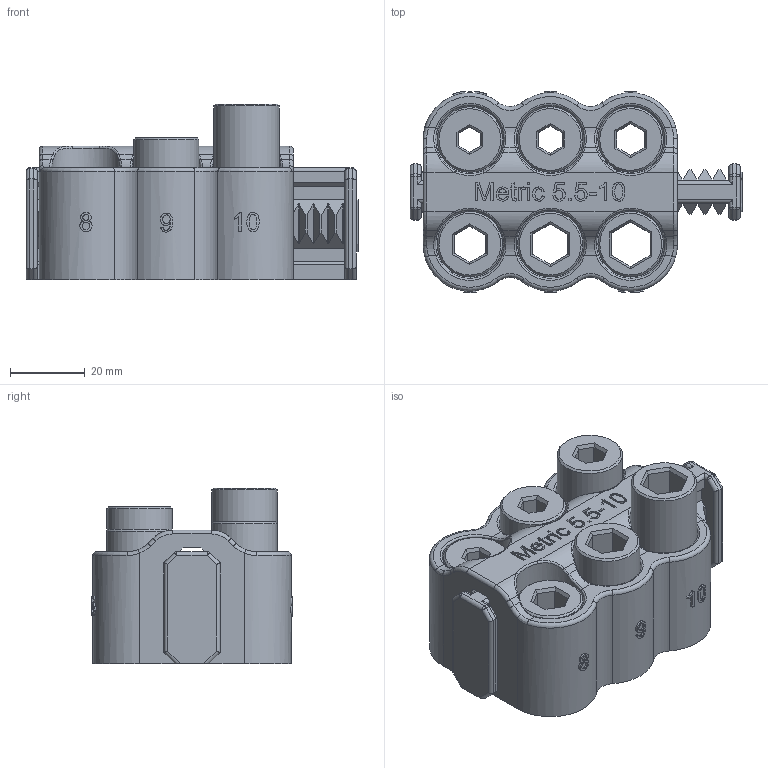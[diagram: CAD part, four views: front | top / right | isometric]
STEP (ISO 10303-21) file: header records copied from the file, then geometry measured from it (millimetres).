
FILE_DESCRIPTION(/* description */ (''),/* implementation_level */ '2;1');
FILE_NAME(/* name */ 'C:/Users/cookn/OneDrive/Documents/Allen Key Holder Files/Metric 5.5-10.step',/* time_stamp */ '2021-08-23T11:35:49-04:00',/* author */ (''),/* organization */ (''),/* preprocessor_version */ 'ST-DEVELOPER v18.1',/* originating_system */ 'Autodesk Translation Framework v10.9.0.1377',/* authorisation */ '');
FILE_SCHEMA (('AUTOMOTIVE_DESIGN { 1 0 10303 214 3 1 1 }'));
Products named in the file (8): Metric 5.5-10; Rack 5 v2; Gear 5 v4; Gear 5 v4 (1); Gear 5 v4 (2); Gear 5 v4 (3); Gear 5 v4 (4); Gear 5 v4 (5)
Assembly tree (7 placements, depth 2):
  Metric 5.5-10
    Rack 5 v2
    Gear 5 v4
    Gear 5 v4 (1)
    Gear 5 v4 (2)
    Gear 5 v4 (3)
    Gear 5 v4 (4)
    Gear 5 v4 (5)
Bounding box: 88.78 x 54 x 47 mm (x, y, z)
Volume: 96179.1 mm3; surface area: 57435.5 mm2
Topology: 8 solids, 8 shells, 2353 faces, 5871 edges, 3546 vertices
Faces by surface type: bspline 1050, plane 969, cylinder 236, cone 60, torus 30, sphere 8
Full cylindrical faces by diameter (mm): 14 x12, 14.8 x12, 17.5 x12, 18.3 x12
Entity records: 399045 total; most frequent: CARTESIAN_POINT 352407, ORIENTED_EDGE 11742, DIRECTION 6487, EDGE_CURVE 5871, VERTEX_POINT 3546, LINE 3007, VECTOR 3007, EDGE_LOOP 2401
